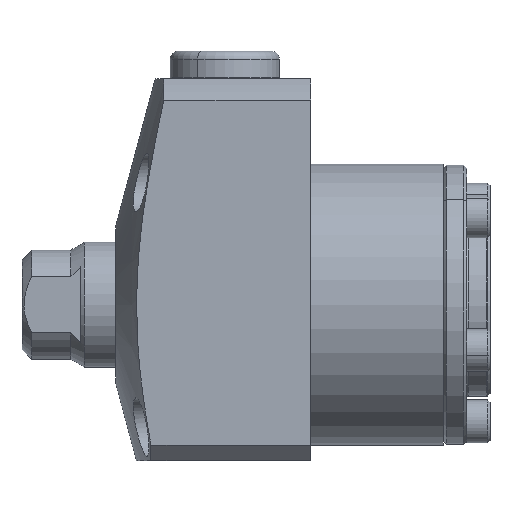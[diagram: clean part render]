
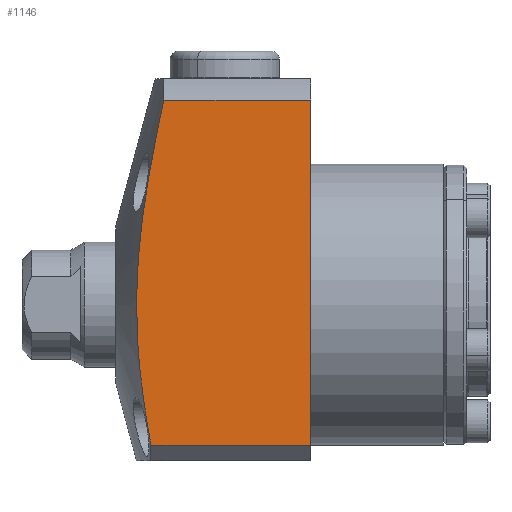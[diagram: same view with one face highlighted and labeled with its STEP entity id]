
A CAD part, left-side view. The second image highlights one B-rep face of the part: STEP entity #1146.
In plain terms, the highlighted planar face has unit normal (-1, 0, 0).
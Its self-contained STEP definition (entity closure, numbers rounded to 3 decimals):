
#1146 = ADVANCED_FACE ( 'NONE', ( #4637 ), #4638, .F. ) ;
#1274 = EDGE_LOOP ( 'NONE', ( #4755, #4756, #4757, #4758 ) ) ;
#1547 = B_SPLINE_CURVE_WITH_KNOTS ( 'NONE', 3,
 ( #3493, #3483, #3484, #3495, #3496, #3497, #3498, #3499, #3500, #3501, #3502, #3503, #3504, #3505, #3506, #3507, #3508, #3509, #3510, #3511 ),
 .UNSPECIFIED., .F., .F.,
 ( 4, 2, 2, 2, 2, 2, 2, 2, 2, 4 ),
 ( 0.022, 0.028, 0.033, 0.039, 0.045, 0.05, 0.053, 0.056, 0.061, 0.067 ),
 .UNSPECIFIED. ) ;
#1614 = EDGE_CURVE ( 'NONE', #4918, #4919, #1547, .T. ) ;
#1804 = VECTOR ( 'NONE', #3855, 1000. ) ;
#1806 = VECTOR ( 'NONE', #3860, 1000. ) ;
#1809 = VECTOR ( 'NONE', #3866, 1000. ) ;
#2342 = AXIS2_PLACEMENT_3D ( 'NONE', #4630, #4639, #4640 ) ;
#3483 = CARTESIAN_POINT ( 'NONE',  ( -20., 20.799, -16.163 ) ) ;
#3484 = CARTESIAN_POINT ( 'NONE',  ( -20., 21.102, -14.319 ) ) ;
#3493 = CARTESIAN_POINT ( 'NONE',  ( -20., 20.47, -18. ) ) ;
#3495 = CARTESIAN_POINT ( 'NONE',  ( -20., 21.625, -10.63 ) ) ;
#3496 = CARTESIAN_POINT ( 'NONE',  ( -20., 21.845, -8.784 ) ) ;
#3497 = CARTESIAN_POINT ( 'NONE',  ( -20., 22.169, -5.091 ) ) ;
#3498 = CARTESIAN_POINT ( 'NONE',  ( -20., 22.273, -3.242 ) ) ;
#3499 = CARTESIAN_POINT ( 'NONE',  ( -20., 22.342, 0.457 ) ) ;
#3500 = CARTESIAN_POINT ( 'NONE',  ( -20., 22.307, 2.309 ) ) ;
#3501 = CARTESIAN_POINT ( 'NONE',  ( -20., 22.105, 6.015 ) ) ;
#3502 = CARTESIAN_POINT ( 'NONE',  ( -20., 21.938, 7.87 ) ) ;
#3503 = CARTESIAN_POINT ( 'NONE',  ( -20., 21.612, 10.654 ) ) ;
#3504 = CARTESIAN_POINT ( 'NONE',  ( -20., 21.49, 11.582 ) ) ;
#3505 = CARTESIAN_POINT ( 'NONE',  ( -20., 21.228, 13.432 ) ) ;
#3506 = CARTESIAN_POINT ( 'NONE',  ( -20., 21.086, 14.354 ) ) ;
#3507 = CARTESIAN_POINT ( 'NONE',  ( -20., 20.637, 17.116 ) ) ;
#3508 = CARTESIAN_POINT ( 'NONE',  ( -20., 20.305, 18.949 ) ) ;
#3509 = CARTESIAN_POINT ( 'NONE',  ( -20., 19.599, 22.605 ) ) ;
#3510 = CARTESIAN_POINT ( 'NONE',  ( -20., 19.225, 24.429 ) ) ;
#3511 = CARTESIAN_POINT ( 'NONE',  ( -20., 18.837, 26.249 ) ) ;
#3844 = LINE ( 'NONE', #3845, #1804 ) ;
#3845 = CARTESIAN_POINT ( 'NONE',  ( -20., 0., 26.249 ) ) ;
#3849 = LINE ( 'NONE', #3859, #1806 ) ;
#3855 = DIRECTION ( 'NONE',  ( 0., 1., 0. ) ) ;
#3859 = CARTESIAN_POINT ( 'NONE',  ( -20., 0., -20. ) ) ;
#3860 = DIRECTION ( 'NONE',  ( 0., 0., -1. ) ) ;
#3864 = LINE ( 'NONE', #3865, #1809 ) ;
#3865 = CARTESIAN_POINT ( 'NONE',  ( -20., 25., -18. ) ) ;
#3866 = DIRECTION ( 'NONE',  ( 0., -1., 0. ) ) ;
#3993 = CARTESIAN_POINT ( 'NONE',  ( -20., 20.47, -18. ) ) ;
#3994 = CARTESIAN_POINT ( 'NONE',  ( -20., 18.837, 26.249 ) ) ;
#3995 = CARTESIAN_POINT ( 'NONE',  ( -20., 0., -18. ) ) ;
#3997 = CARTESIAN_POINT ( 'NONE',  ( -20., 0., 26.249 ) ) ;
#4630 = CARTESIAN_POINT ( 'NONE',  ( -20., 25., 29. ) ) ;
#4637 = FACE_OUTER_BOUND ( 'NONE', #1274, .T. ) ;
#4638 = PLANE ( 'NONE',  #2342 ) ;
#4639 = DIRECTION ( 'NONE',  ( 1., 0., 0. ) ) ;
#4640 = DIRECTION ( 'NONE',  ( 0., 0., -1. ) ) ;
#4719 = EDGE_CURVE ( 'NONE', #4922, #4919, #3844, .T. ) ;
#4721 = EDGE_CURVE ( 'NONE', #4922, #4920, #3849, .T. ) ;
#4723 = EDGE_CURVE ( 'NONE', #4918, #4920, #3864, .T. ) ;
#4755 = ORIENTED_EDGE ( 'NONE', *, *, #1614, .F. ) ;
#4756 = ORIENTED_EDGE ( 'NONE', *, *, #4723, .T. ) ;
#4757 = ORIENTED_EDGE ( 'NONE', *, *, #4721, .F. ) ;
#4758 = ORIENTED_EDGE ( 'NONE', *, *, #4719, .T. ) ;
#4918 = VERTEX_POINT ( 'NONE', #3993 ) ;
#4919 = VERTEX_POINT ( 'NONE', #3994 ) ;
#4920 = VERTEX_POINT ( 'NONE', #3995 ) ;
#4922 = VERTEX_POINT ( 'NONE', #3997 ) ;
